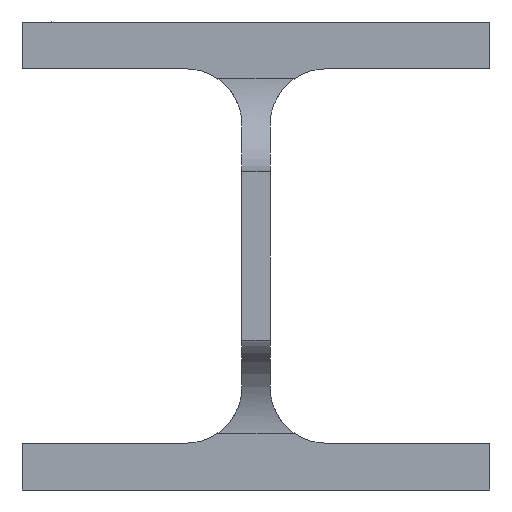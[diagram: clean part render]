
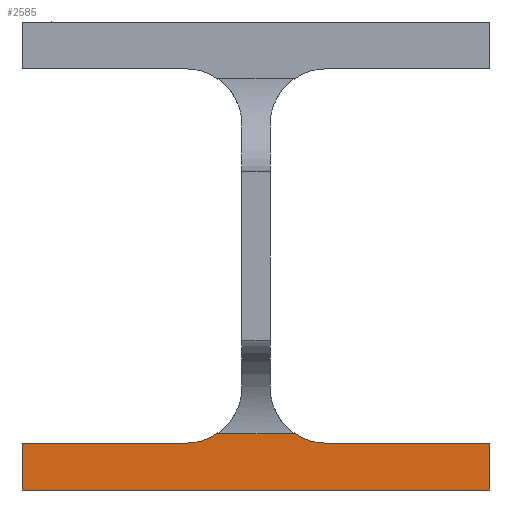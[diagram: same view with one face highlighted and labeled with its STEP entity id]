
A CAD part, front view. The second image highlights one B-rep face of the part: STEP entity #2585.
In plain terms, the highlighted planar face has unit normal (0, -1, 0).
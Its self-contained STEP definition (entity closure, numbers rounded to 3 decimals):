
#29 = VECTOR ( 'NONE', #825, 1000. ) ;
#58 = FACE_OUTER_BOUND ( 'NONE', #421, .T. ) ;
#121 = ORIENTED_EDGE ( 'NONE', *, *, #2707, .T. ) ;
#149 = CARTESIAN_POINT ( 'NONE',  ( 7865., 52., 2300. ) ) ;
#157 = VERTEX_POINT ( 'NONE', #1098 ) ;
#165 = AXIS2_PLACEMENT_3D ( 'NONE', #2605, #2391, #1997 ) ;
#169 = ORIENTED_EDGE ( 'NONE', *, *, #1713, .T. ) ;
#265 = CIRCLE ( 'NONE', #165, 12. ) ;
#285 = DIRECTION ( 'NONE',  ( 0., -1., 0. ) ) ;
#328 = CARTESIAN_POINT ( 'NONE',  ( 7965., 52., 2290. ) ) ;
#352 = VECTOR ( 'NONE', #2309, 1000. ) ;
#412 = AXIS2_PLACEMENT_3D ( 'NONE', #1578, #1230, #1921 ) ;
#416 = EDGE_CURVE ( 'NONE', #2478, #1776, #785, .T. ) ;
#421 = EDGE_LOOP ( 'NONE', ( #169, #2043, #467, #2651, #1312, #1504, #121, #1850 ) ) ;
#425 = LINE ( 'NONE', #485, #723 ) ;
#430 = CARTESIAN_POINT ( 'NONE',  ( 7906.633, 52., 2302. ) ) ;
#467 = ORIENTED_EDGE ( 'NONE', *, *, #1731, .T. ) ;
#485 = CARTESIAN_POINT ( 'NONE',  ( 7865., 52., 2290. ) ) ;
#546 = AXIS2_PLACEMENT_3D ( 'NONE', #1770, #285, #2037 ) ;
#670 = EDGE_CURVE ( 'NONE', #157, #1994, #2295, .T. ) ;
#723 = VECTOR ( 'NONE', #1108, 1000. ) ;
#724 = EDGE_CURVE ( 'NONE', #1994, #2671, #1670, .T. ) ;
#738 = VERTEX_POINT ( 'NONE', #1686 ) ;
#785 = LINE ( 'NONE', #149, #29 ) ;
#813 = CARTESIAN_POINT ( 'NONE',  ( 7965., 52., 2300. ) ) ;
#825 = DIRECTION ( 'NONE',  ( -1., 0., 0. ) ) ;
#830 = VERTEX_POINT ( 'NONE', #2188 ) ;
#983 = VECTOR ( 'NONE', #1019, 1000. ) ;
#1019 = DIRECTION ( 'NONE',  ( -1., 0., 0. ) ) ;
#1097 = EDGE_CURVE ( 'NONE', #738, #1287, #1235, .T. ) ;
#1098 = CARTESIAN_POINT ( 'NONE',  ( 7865., 52., 2290. ) ) ;
#1108 = DIRECTION ( 'NONE',  ( 0., 0., -1. ) ) ;
#1230 = DIRECTION ( 'NONE',  ( 0., 1., 0. ) ) ;
#1235 = LINE ( 'NONE', #2124, #983 ) ;
#1287 = VERTEX_POINT ( 'NONE', #430 ) ;
#1312 = ORIENTED_EDGE ( 'NONE', *, *, #724, .T. ) ;
#1332 = CARTESIAN_POINT ( 'NONE',  ( 7965., 52., 2300. ) ) ;
#1504 = ORIENTED_EDGE ( 'NONE', *, *, #2325, .T. ) ;
#1578 = CARTESIAN_POINT ( 'NONE',  ( 7930., 52., 2312. ) ) ;
#1670 = LINE ( 'NONE', #813, #2049 ) ;
#1686 = CARTESIAN_POINT ( 'NONE',  ( 7923.367, 52., 2302. ) ) ;
#1691 = CARTESIAN_POINT ( 'NONE',  ( 7900., 52., 2300. ) ) ;
#1713 = EDGE_CURVE ( 'NONE', #1287, #2478, #265, .T. ) ;
#1731 = EDGE_CURVE ( 'NONE', #1776, #157, #425, .T. ) ;
#1770 = CARTESIAN_POINT ( 'NONE',  ( 11000., 52., 2300. ) ) ;
#1776 = VERTEX_POINT ( 'NONE', #2405 ) ;
#1819 = CARTESIAN_POINT ( 'NONE',  ( 7930., 52., 2300. ) ) ;
#1832 = LINE ( 'NONE', #1819, #2057 ) ;
#1850 = ORIENTED_EDGE ( 'NONE', *, *, #1097, .T. ) ;
#1921 = DIRECTION ( 'NONE',  ( 0., 0., -1. ) ) ;
#1994 = VERTEX_POINT ( 'NONE', #2479 ) ;
#1997 = DIRECTION ( 'NONE',  ( 0., 0., -1. ) ) ;
#2037 = DIRECTION ( 'NONE',  ( 0., 0., -1. ) ) ;
#2043 = ORIENTED_EDGE ( 'NONE', *, *, #416, .T. ) ;
#2049 = VECTOR ( 'NONE', #2829, 1000. ) ;
#2057 = VECTOR ( 'NONE', #2701, 1000. ) ;
#2124 = CARTESIAN_POINT ( 'NONE',  ( 11000., 52., 2302. ) ) ;
#2188 = CARTESIAN_POINT ( 'NONE',  ( 7930., 52., 2300. ) ) ;
#2196 = CIRCLE ( 'NONE', #412, 12. ) ;
#2295 = LINE ( 'NONE', #328, #352 ) ;
#2309 = DIRECTION ( 'NONE',  ( 1., 0., 0. ) ) ;
#2325 = EDGE_CURVE ( 'NONE', #2671, #830, #1832, .T. ) ;
#2391 = DIRECTION ( 'NONE',  ( 0., 1., 0. ) ) ;
#2405 = CARTESIAN_POINT ( 'NONE',  ( 7865., 52., 2300. ) ) ;
#2478 = VERTEX_POINT ( 'NONE', #1691 ) ;
#2479 = CARTESIAN_POINT ( 'NONE',  ( 7965., 52., 2290. ) ) ;
#2585 = ADVANCED_FACE ( 'NONE', ( #58 ), #2698, .T. ) ;
#2605 = CARTESIAN_POINT ( 'NONE',  ( 7900., 52., 2312. ) ) ;
#2651 = ORIENTED_EDGE ( 'NONE', *, *, #670, .T. ) ;
#2671 = VERTEX_POINT ( 'NONE', #1332 ) ;
#2698 = PLANE ( 'NONE',  #546 ) ;
#2701 = DIRECTION ( 'NONE',  ( -1., 0., 0. ) ) ;
#2707 = EDGE_CURVE ( 'NONE', #830, #738, #2196, .T. ) ;
#2829 = DIRECTION ( 'NONE',  ( 0., 0., 1. ) ) ;
